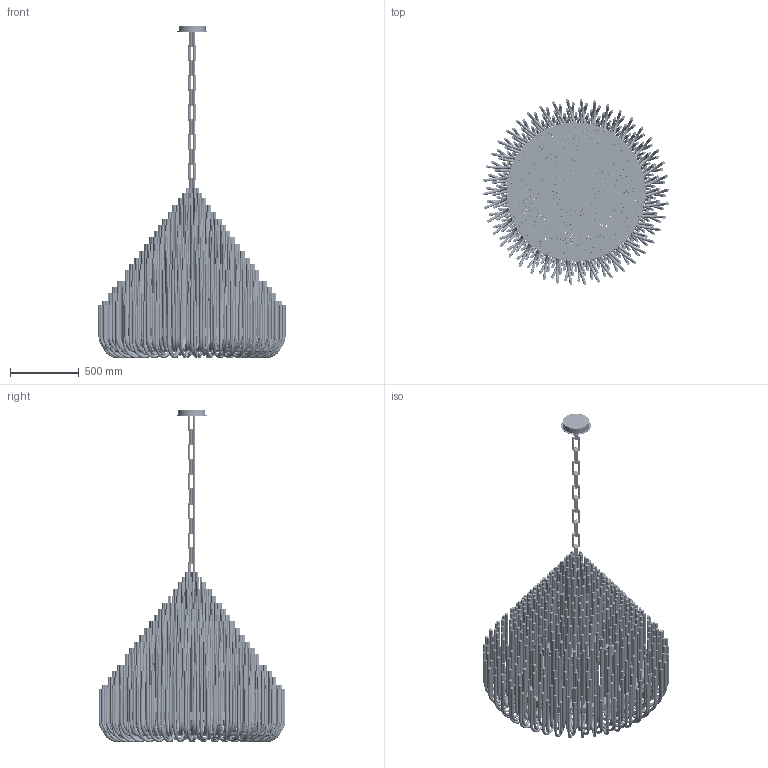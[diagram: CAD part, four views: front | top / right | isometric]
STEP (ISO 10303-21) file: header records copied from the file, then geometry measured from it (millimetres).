
FILE_DESCRIPTION(/* description */ (''),/* implementation_level */ '2;1');
FILE_NAME(/* name */ 'Ludwig L',/* time_stamp */ '2019-01-24T14:01:27+01:00',/* author */ (''),/* organization */ (''),/* preprocessor_version */ 'ST-DEVELOPER v15',/* originating_system */ '',/* authorisation */ '');
FILE_SCHEMA (('AUTOMOTIVE_DESIGN'));
Products named in the file (34): Document; sklo zahlé 03; sklo zahlé 04; sklo zahlé 05; sklo zahlé 06; sklo zahlé 07; kryt světla 01; objímka E13 01; kryt světla 02 01; kryt světla 03 01; kryt světla 06; kryt světla 07; krycí plech horní patro; objímka E13; sklo zahlé 01; sklo zahlé 02; kryt světla 02; kryt světla 03; kryt světla 04; kryt světla 05; tyč rovná 01; tyč rovná 02; tyč rovná 03; tyč rovná 04; tyč rovná 05; tyč rovná 06; spojovaci tyc mezi patry; retez - 007; retez 006; retez 005; retez - 004; retez 003; retez 002; retez - 001
Assembly tree (673 placements, depth 2):
  Document
    sklo zahlé 03  x42
    sklo zahlé 04  x42
    sklo zahlé 05  x42
    sklo zahlé 06  x42
    sklo zahlé 07  x42
    kryt světla 01  x21
    objímka E13 01  x98
    kryt světla 02 01  x7
    kryt světla 03 01  x14
    kryt světla 06  x14
    kryt světla 07  x14
    krycí plech horní patro
    objímka E13  x63
    sklo zahlé 01  x21
    sklo zahlé 02  x21
    kryt světla 02  x7
    kryt světla 03  x7
    kryt světla 04  x7
    kryt světla 05  x5
    tyč rovná 01  x28
    tyč rovná 02  x28
    tyč rovná 03  x28
    tyč rovná 04  x14
    tyč rovná 05  x7
    tyč rovná 06  x7
    spojovaci tyc mezi patry  x7
    retez - 007  x2
    retez 006  x2
    retez 005
    retez - 004
    retez 003  x24
    retez 002  x12
    retez - 001  x2
Bounding box: 1364.22 x 1362.73 x 2421.84 mm (x, y, z)
Volume: 116247478.7 mm3; surface area: 34823749.8 mm2
Topology: 658 solids, 687 shells, 15578 faces, 40473 edges, 25975 vertices
Faces by surface type: bspline 15578
Entity records: 206154 total; most frequent: CARTESIAN_POINT 111932, ORIENTED_EDGE 14955, PCURVE 14955, DEFINITIONAL_REPRESENTATION 14955, B_SPLINE_CURVE_WITH_KNOTS 12401, SURFACE_CURVE 7482, EDGE_CURVE 7482, VERTEX_POINT 5328
